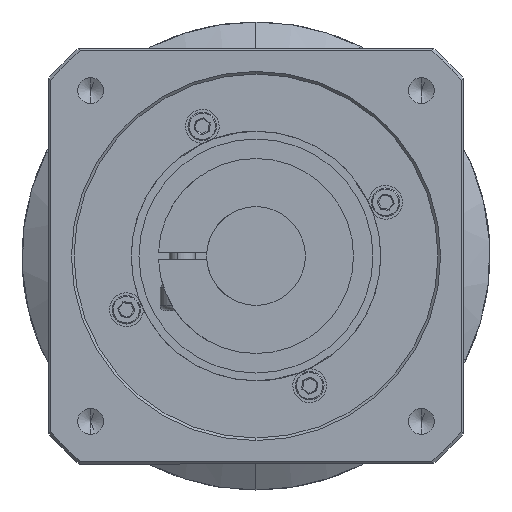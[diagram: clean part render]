
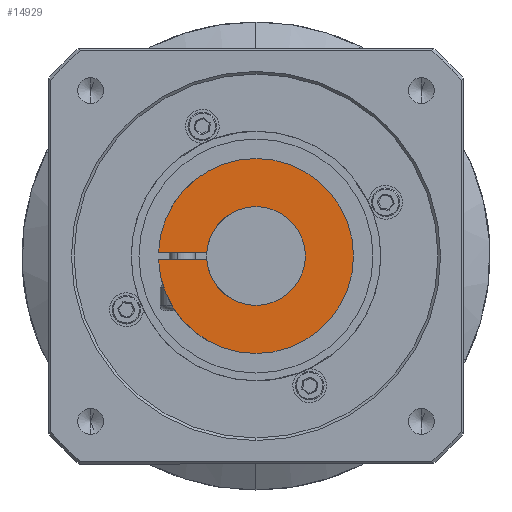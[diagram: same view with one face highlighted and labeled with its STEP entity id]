
A CAD part, front view. The second image highlights one B-rep face of the part: STEP entity #14929.
In plain terms, the highlighted planar face has unit normal (0, -1, 0).
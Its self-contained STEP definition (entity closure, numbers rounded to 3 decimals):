
#96 = EDGE_CURVE ( 'NONE', #10195, #11345, #12826, .T. ) ;
#97 = ORIENTED_EDGE ( 'NONE', *, *, #10178, .T. ) ;
#293 = ORIENTED_EDGE ( 'NONE', *, *, #11494, .F. ) ;
#681 = ORIENTED_EDGE ( 'NONE', *, *, #10383, .T. ) ;
#3495 = CIRCLE ( 'NONE', #3502, 18.75 ) ;
#3502 = AXIS2_PLACEMENT_3D ( 'NONE', #3538, #3533, #3531 ) ;
#3531 = DIRECTION ( 'NONE',  ( 0., 0., -1. ) ) ;
#3533 = DIRECTION ( 'NONE',  ( 0., -1., 0. ) ) ;
#3538 = CARTESIAN_POINT ( 'NONE',  ( 0., 0., 0. ) ) ;
#3578 = CARTESIAN_POINT ( 'NONE',  ( 0., 0., -18.75 ) ) ;
#3591 = CARTESIAN_POINT ( 'NONE',  ( 0., 0., 18.75 ) ) ;
#3598 = CIRCLE ( 'NONE', #3664, 18.75 ) ;
#3662 = DIRECTION ( 'NONE',  ( 0., 0., -1. ) ) ;
#3663 = DIRECTION ( 'NONE',  ( 0., -1., 0. ) ) ;
#3664 = AXIS2_PLACEMENT_3D ( 'NONE', #3673, #3663, #3662 ) ;
#3673 = CARTESIAN_POINT ( 'NONE',  ( 0., 0., 0. ) ) ;
#3717 = CARTESIAN_POINT ( 'NONE',  ( -18.735, 0., -0.75 ) ) ;
#4194 = DIRECTION ( 'NONE',  ( 0., 0., -1. ) ) ;
#4195 = DIRECTION ( 'NONE',  ( 0., -1., 0. ) ) ;
#4196 = AXIS2_PLACEMENT_3D ( 'NONE', #4205, #4195, #4194 ) ;
#4201 = CIRCLE ( 'NONE', #4196, 18.75 ) ;
#4205 = CARTESIAN_POINT ( 'NONE',  ( 0., 0., 0. ) ) ;
#4222 = CARTESIAN_POINT ( 'NONE',  ( -18.735, 0., 0.75 ) ) ;
#6010 = CARTESIAN_POINT ( 'NONE',  ( -9.47, 0., -0.75 ) ) ;
#6038 = CARTESIAN_POINT ( 'NONE',  ( 0., 0., 9.5 ) ) ;
#6117 = DIRECTION ( 'NONE',  ( 0., 0., -1. ) ) ;
#6134 = DIRECTION ( 'NONE',  ( 0., -1., 0. ) ) ;
#6311 = CARTESIAN_POINT ( 'NONE',  ( -9.47, 0., 0.75 ) ) ;
#6354 = DIRECTION ( 'NONE',  ( 0., 0., -1. ) ) ;
#6355 = DIRECTION ( 'NONE',  ( 0., -1., 0. ) ) ;
#6356 = CARTESIAN_POINT ( 'NONE',  ( 0., 0., 0. ) ) ;
#6357 = AXIS2_PLACEMENT_3D ( 'NONE', #6356, #6355, #6354 ) ;
#6358 = CIRCLE ( 'NONE', #6357, 9.5 ) ;
#6621 = AXIS2_PLACEMENT_3D ( 'NONE', #6646, #6134, #6117 ) ;
#6627 = CIRCLE ( 'NONE', #6621, 9.5 ) ;
#6646 = CARTESIAN_POINT ( 'NONE',  ( 0., 0., 0. ) ) ;
#6680 = CARTESIAN_POINT ( 'NONE',  ( 0., 0., -9.5 ) ) ;
#8422 = CARTESIAN_POINT ( 'NONE',  ( 0., 0., 0. ) ) ;
#8424 = CIRCLE ( 'NONE', #8443, 9.5 ) ;
#8443 = AXIS2_PLACEMENT_3D ( 'NONE', #8422, #8474, #8473 ) ;
#8473 = DIRECTION ( 'NONE',  ( 0., 0., -1. ) ) ;
#8474 = DIRECTION ( 'NONE',  ( 0., -1., 0. ) ) ;
#8478 = LINE ( 'NONE', #8541, #8540 ) ;
#8479 = PLANE ( 'NONE',  #8524 ) ;
#8514 = DIRECTION ( 'NONE',  ( 0., 0., -1. ) ) ;
#8517 = DIRECTION ( 'NONE',  ( 0., -1., 0. ) ) ;
#8518 = CARTESIAN_POINT ( 'NONE',  ( 0., 0., 0. ) ) ;
#8524 = AXIS2_PLACEMENT_3D ( 'NONE', #8518, #8517, #8514 ) ;
#8526 = FACE_OUTER_BOUND ( 'NONE', #14903, .T. ) ;
#8539 = DIRECTION ( 'NONE',  ( -1., 0., 0. ) ) ;
#8540 = VECTOR ( 'NONE', #8539, 1000. ) ;
#8541 = CARTESIAN_POINT ( 'NONE',  ( -5.198, 0., 0.75 ) ) ;
#10136 = EDGE_CURVE ( 'NONE', #10195, #10154, #3495, .T. ) ;
#10154 = VERTEX_POINT ( 'NONE', #3578 ) ;
#10167 = VERTEX_POINT ( 'NONE', #3591 ) ;
#10178 = EDGE_CURVE ( 'NONE', #10154, #10167, #3598, .T. ) ;
#10195 = VERTEX_POINT ( 'NONE', #3717 ) ;
#10375 = VERTEX_POINT ( 'NONE', #4222 ) ;
#10383 = EDGE_CURVE ( 'NONE', #10167, #10375, #4201, .T. ) ;
#11339 = VERTEX_POINT ( 'NONE', #6038 ) ;
#11345 = VERTEX_POINT ( 'NONE', #6010 ) ;
#11474 = VERTEX_POINT ( 'NONE', #6311 ) ;
#11494 = EDGE_CURVE ( 'NONE', #11339, #11474, #6358, .T. ) ;
#11636 = EDGE_CURVE ( 'NONE', #11345, #11643, #6627, .T. ) ;
#11643 = VERTEX_POINT ( 'NONE', #6680 ) ;
#12815 = DIRECTION ( 'NONE',  ( 1., 0., 0. ) ) ;
#12816 = VECTOR ( 'NONE', #12815, 1000. ) ;
#12817 = CARTESIAN_POINT ( 'NONE',  ( -5.198, 0., -0.75 ) ) ;
#12826 = LINE ( 'NONE', #12817, #12816 ) ;
#14393 = EDGE_CURVE ( 'NONE', #11643, #11339, #8424, .T. ) ;
#14404 = ORIENTED_EDGE ( 'NONE', *, *, #96, .F. ) ;
#14414 = ORIENTED_EDGE ( 'NONE', *, *, #14393, .F. ) ;
#14736 = EDGE_CURVE ( 'NONE', #11474, #10375, #8478, .T. ) ;
#14737 = ORIENTED_EDGE ( 'NONE', *, *, #11636, .F. ) ;
#14806 = ORIENTED_EDGE ( 'NONE', *, *, #14736, .F. ) ;
#14903 = EDGE_LOOP ( 'NONE', ( #14806, #293, #14414, #14737, #14404, #15766, #97, #681 ) ) ;
#14929 = ADVANCED_FACE ( 'NONE', ( #8526 ), #8479, .T. ) ;
#15766 = ORIENTED_EDGE ( 'NONE', *, *, #10136, .T. ) ;
